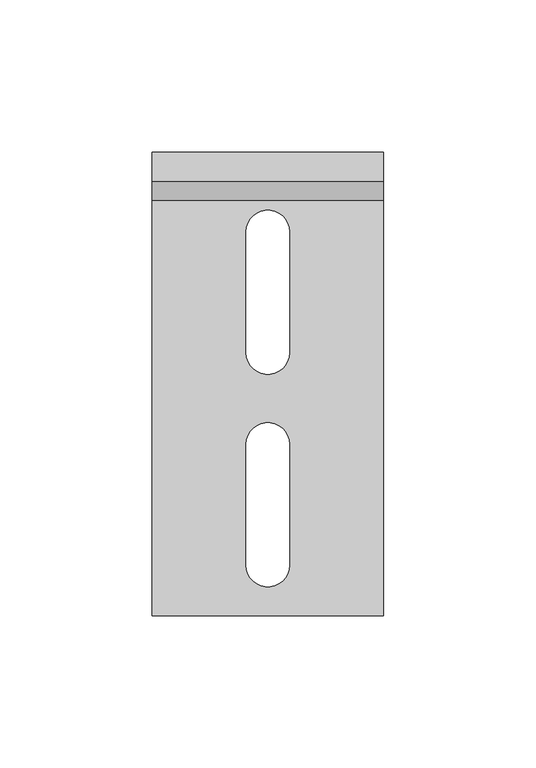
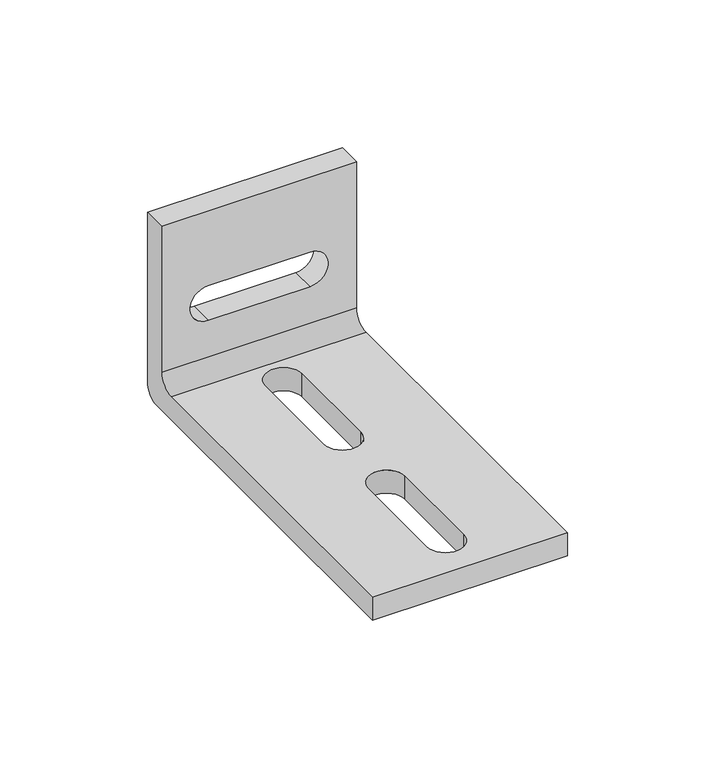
"""IFC4 building model written with IfcOpenShell, lengths in millimetres: proxy geometry, 14NSF-A23 : 14NSF-A23."""

from ifc_helpers import new_model, si_unit, frame, origin, place, context, project, spatial, polyline, circle_curve, source, transform, mapped, element, save
from ifc_brep_helpers import plane_surface, cylinder_surface, revolved_surface, advanced_brep


def generic_models_dfbbf76c(model_context):
    return source(origin(), model_context, "Body", "AdvancedBrep", [
        advanced_brep(
        [(38.1, -152.4, 9.525), (38.1, -152.4, 0.0), (38.1, -6.35, 0.0), (38.1, 0.0, 6.35), (38.1, 0.0, 76.2), (38.1, -9.525, 76.2), (38.1, -9.525, 15.875), (38.1, -15.875, 9.525), (-38.1, -152.4, 0.0), (-38.1, -152.4, 9.525), (-38.1, -15.875, 9.525), (-38.1, -9.525, 15.875), (-38.1, -9.525, 76.2), (-38.1, 0.0, 76.2), (-38.1, 0.0, 6.35), (-38.1, -6.35, 0.0), (7.14375, -65.8874249, 0.0), (7.14375, -26.1875751, 0.0), (-7.14375, -26.1875751, 0.0), (-7.14375, -65.8874249, 0.0), (7.14375, -135.7374249, 0.0), (7.14375, -96.0375751, 0.0), (-7.14375, -96.0375751, 0.0), (-7.14375, -135.7374249, 0.0), (19.8499249, 0.0, 45.24375), (-19.8499249, 0.0, 45.24375), (-19.8499249, 0.0, 30.95625), (19.8499249, 0.0, 30.95625), (-19.8499249, -9.525, 45.24375), (19.8499249, -9.525, 45.24375), (19.8499249, -9.525, 30.95625), (-19.8499249, -9.525, 30.95625), (7.14375, -26.1875751, 9.525), (7.14375, -65.8874249, 9.525), (-7.14375, -65.8874249, 9.525), (-7.14375, -26.1875751, 9.525), (7.14375, -96.0375751, 9.525), (7.14375, -135.7374249, 9.525), (-7.14375, -135.7374249, 9.525), (-7.14375, -96.0375751, 9.525)],
        [
            (0, 1),
            (1, 2),
            (2, 3, circle_curve(frame((38.1, -6.35, 6.35), z_axis=(1.0, 0.0, 0.0), x_axis=(0.0, 1.0, 0.0)), 6.35)),
            (3, 4),
            (4, 5),
            (5, 6),
            (6, 7, circle_curve(frame((38.1, -15.875, 15.875), z_axis=(-1.0, 0.0, 0.0), x_axis=(0.0, 1.0, 0.0)), 6.35)),
            (7, 0),
            (8, 9),
            (9, 10),
            (10, 11, circle_curve(frame((-38.1, -15.875, 15.875), z_axis=(1.0, 0.0, 0.0), x_axis=(0.0, 1.0, 0.0)), 6.35)),
            (11, 12),
            (12, 13),
            (13, 14),
            (14, 15, circle_curve(frame((-38.1, -6.35, 6.35), z_axis=(-1.0, 0.0, 0.0), x_axis=(0.0, 1.0, 0.0)), 6.35)),
            (15, 8),
            (0, 9),
            (8, 1),
            (15, 2),
            (16, 17),
            (17, 18, circle_curve(frame((0.0, -26.1875751, 0.0), z_axis=(0.0, 0.0, 1.0), x_axis=(1.0, 0.0, 0.0)), 7.14375)),
            (18, 19),
            (19, 16, circle_curve(frame((0.0, -65.8874249, 0.0), z_axis=(0.0, 0.0, 1.0), x_axis=(1.0, 0.0, 0.0)), 7.14375)),
            (20, 21),
            (21, 22, circle_curve(frame((0.0, -96.0375751, 0.0), z_axis=(0.0, 0.0, 1.0), x_axis=(1.0, 0.0, 0.0)), 7.14375)),
            (22, 23),
            (23, 20, circle_curve(frame((0.0, -135.7374249, 0.0), z_axis=(0.0, 0.0, 1.0), x_axis=(1.0, 0.0, 0.0)), 7.14375)),
            (14, 3),
            (13, 4),
            (24, 25),
            (25, 26, circle_curve(frame((-19.8499249, 0.0, 38.1), z_axis=(0.0, -1.0, 0.0), x_axis=(0.0, 0.0, 1.0)), 7.14375)),
            (26, 27),
            (27, 24, circle_curve(frame((19.8499249, 0.0, 38.1), z_axis=(0.0, -1.0, 0.0), x_axis=(0.0, 0.0, 1.0)), 7.14375)),
            (12, 5),
            (11, 6),
            (28, 29),
            (29, 30, circle_curve(frame((19.8499249, -9.525, 38.1), z_axis=(0.0, 1.0, 0.0), x_axis=(0.0, 0.0, 1.0)), 7.14375)),
            (30, 31),
            (31, 28, circle_curve(frame((-19.8499249, -9.525, 38.1), z_axis=(0.0, 1.0, 0.0), x_axis=(0.0, 0.0, 1.0)), 7.14375)),
            (10, 7),
            (32, 33),
            (33, 34, circle_curve(frame((0.0, -65.8874249, 9.525), z_axis=(0.0, 0.0, -1.0), x_axis=(1.0, 0.0, 0.0)), 7.14375)),
            (34, 35),
            (35, 32, circle_curve(frame((0.0, -26.1875751, 9.525), z_axis=(0.0, 0.0, -1.0), x_axis=(1.0, 0.0, 0.0)), 7.14375)),
            (36, 37),
            (37, 38, circle_curve(frame((0.0, -135.7374249, 9.525), z_axis=(0.0, 0.0, -1.0), x_axis=(1.0, 0.0, 0.0)), 7.14375)),
            (38, 39),
            (39, 36, circle_curve(frame((0.0, -96.0375751, 9.525), z_axis=(0.0, 0.0, -1.0), x_axis=(1.0, 0.0, 0.0)), 7.14375)),
            (24, 29),
            (28, 25),
            (31, 26),
            (30, 27),
            (16, 33),
            (32, 17),
            (35, 18),
            (34, 19),
            (20, 37),
            (36, 21),
            (39, 22),
            (38, 23),
        ],
        [
            plane_surface(frame((38.1, -152.4, -304.8), z_axis=(1.0, 0.0, 0.0), x_axis=(0.0, 0.0, -1.0))),
            plane_surface(frame((-38.1, -152.4, -304.8), z_axis=(-1.0, 0.0, 0.0), x_axis=(0.0, 0.0, 1.0))),
            plane_surface(frame((38.1, -152.4, 9.525), z_axis=(0.0, -1.0, 0.0), x_axis=(-1.0, 0.0, 0.0))),
            plane_surface(frame((38.1, -152.4, 0.0), z_axis=(0.0, 0.0, -1.0), x_axis=(-1.0, 0.0, 0.0))),
            cylinder_surface(frame((-38.1, -6.35, 6.35), z_axis=(1.0, 0.0, 0.0), x_axis=(0.0, 1.0, 0.0)), 6.35),
            plane_surface(frame((38.1, 0.0, 6.35), z_axis=(0.0, 1.0, 0.0), x_axis=(-1.0, 0.0, 0.0))),
            plane_surface(frame((38.1, 0.0, 76.2), z_axis=(0.0, 0.0, 1.0), x_axis=(-1.0, 0.0, 0.0))),
            plane_surface(frame((38.1, -9.525, 76.2), z_axis=(0.0, -1.0, 0.0), x_axis=(-1.0, 0.0, 0.0))),
            revolved_surface(polyline([(-38.1, -9.525, 15.875), (38.1, -9.525, 15.875)]), (-38.1, -15.875, 15.875), (-1.0, 0.0, 0.0)),
            plane_surface(frame((38.1, -15.875, 9.525), z_axis=(0.0, 0.0, 1.0), x_axis=(-1.0, 0.0, 0.0))),
            plane_surface(frame((19.8499249, -12.7, 45.24375), z_axis=(0.0, 0.0, -1.0), x_axis=(0.0, 1.0, 0.0))),
            revolved_surface(polyline([(-19.8499249, -9.525, 45.24375), (-19.8499249, 0.0, 45.24375)]), (-19.8499249, 0.0, 38.1), (0.0, -1.0, 0.0)),
            plane_surface(frame((-19.8499249, -12.7, 30.95625), z_axis=(0.0, 0.0, 1.0), x_axis=(0.0, 1.0, 0.0))),
            revolved_surface(polyline([(19.8499249, -9.525, 45.24375), (19.8499249, 0.0, 45.24375)]), (19.8499249, 0.0, 38.1), (0.0, -1.0, 0.0)),
            plane_surface(frame((7.14375, -65.8874249, 12.7), z_axis=(-1.0, 0.0, 0.0), x_axis=(0.0, 0.0, -1.0))),
            revolved_surface(polyline([(7.14375, -26.1875751, 9.525), (7.14375, -26.1875751, 0.0)]), (0.0, -26.1875751, 0.0), (0.0, 0.0, 1.0)),
            plane_surface(frame((-7.14375, -26.1875751, 12.7), z_axis=(1.0, 0.0, 0.0), x_axis=(0.0, 0.0, -1.0))),
            revolved_surface(polyline([(7.14375, -65.8874249, 9.525), (7.14375, -65.8874249, 0.0)]), (0.0, -65.8874249, 0.0), (0.0, 0.0, 1.0)),
            plane_surface(frame((7.14375, -135.7374249, 12.7), z_axis=(-1.0, 0.0, 0.0), x_axis=(0.0, 0.0, -1.0))),
            revolved_surface(polyline([(7.14375, -96.0375751, 9.525), (7.14375, -96.0375751, 0.0)]), (0.0, -96.0375751, 0.0), (0.0, 0.0, 1.0)),
            plane_surface(frame((-7.14375, -96.0375751, 12.7), z_axis=(1.0, 0.0, 0.0), x_axis=(0.0, 0.0, -1.0))),
            revolved_surface(polyline([(7.14375, -135.7374249, 9.525), (7.14375, -135.7374249, 0.0)]), (0.0, -135.7374249, 0.0), (0.0, 0.0, 1.0)),
        ],
        [
            (0, [[1, 2, 3, 4, 5, 6, 7, 8]]),
            (1, [[9, 10, 11, 12, 13, 14, 15, 16]]),
            (2, [[-1, 17, -9, 18]]),
            (3, [[-2, -18, -16, 19], [20, 21, 22, 23], [24, 25, 26, 27]]),
            (4, [[-3, -19, -15, 28]]),
            (5, [[-4, -28, -14, 29], [30, 31, 32, 33]]),
            (6, [[-5, -29, -13, 34]]),
            (7, [[-6, -34, -12, 35], [36, 37, 38, 39]]),
            (8, [[-7, -35, -11, 40]]),
            (9, [[-8, -40, -10, -17], [41, 42, 43, 44], [45, 46, 47, 48]]),
            (10, [[49, -36, 50, -30]]),
            (11, [[-50, -39, 51, -31]]),
            (12, [[-51, -38, 52, -32]]),
            (13, [[-49, -33, -52, -37]]),
            (14, [[53, -41, 54, -20]]),
            (15, [[-54, -44, 55, -21]]),
            (16, [[-55, -43, 56, -22]]),
            (17, [[-53, -23, -56, -42]]),
            (18, [[57, -45, 58, -24]]),
            (19, [[-58, -48, 59, -25]]),
            (20, [[-59, -47, 60, -26]]),
            (21, [[-57, -27, -60, -46]]),
        ],
    ),
    ])


if __name__ == "__main__":
    model = new_model("IFC4")
    model_context = context("Model", 3, world=origin())
    ifc_project = project(units=[si_unit("LENGTHUNIT", "METRE", prefix="MILLI")], contexts=[model_context])
    site = spatial("IfcSite", under=ifc_project)
    building = spatial("IfcBuilding", under=site)
    placement = place(None, origin())
    generic_models_shape = generic_models_dfbbf76c(model_context)
    element("IfcBuildingElementProxy", 1, Name="14NSF-A23 : 14NSF-A23", ObjectType="14NSF-A23 : 14NSF-A23", at=placement, inside=building, context=model_context, shape_type="MappedRepresentation", body=[
        mapped(generic_models_shape, transform((0.0, 0.0, 0.0), x_axis=(1.0, 0.0, 0.0), y_axis=(0.0, 1.0, 0.0), z_axis=(0.0, 0.0, 1.0))),
    ])
    save(model, "model.ifc")
